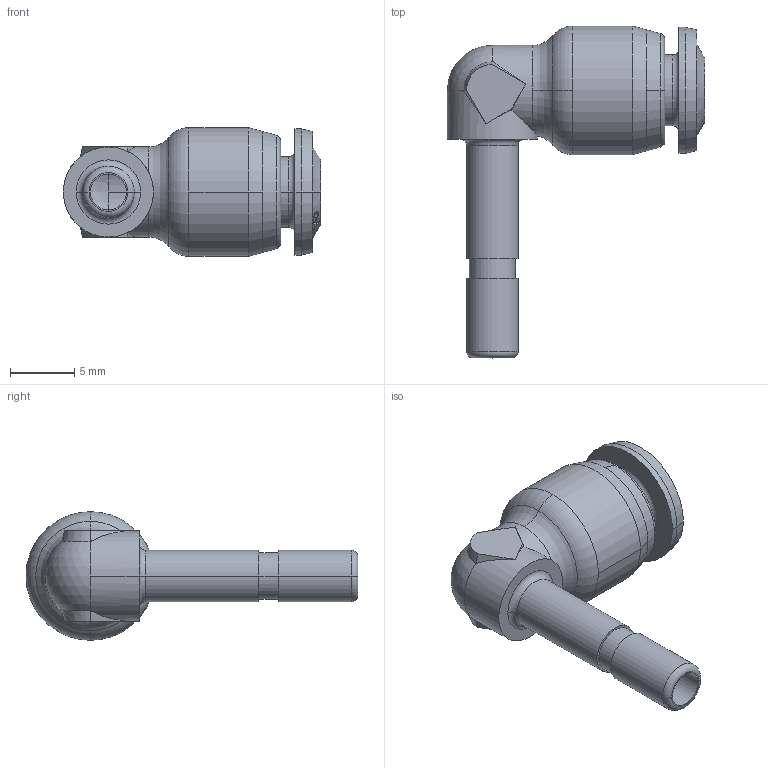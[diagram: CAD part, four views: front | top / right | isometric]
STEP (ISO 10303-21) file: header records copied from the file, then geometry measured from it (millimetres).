
FILE_DESCRIPTION (( 'STEP AP203' ), '1' );
FILE_NAME ('5514000001.step', '2016-07-22T09:11:57', ( 'ST01' ), ( '' ), 'SwSTEP 2.0', 'SolidWorks 2016', '' );
FILE_SCHEMA (( 'CONFIG_CONTROL_DESIGN' ));
Length unit declared in the file: millimetre
Products named in the file (1): 5514000001
Bounding box: 20 x 25.8 x 10 mm (x, y, z)
Surface area: 1178.1 mm2 (no closed solid volume)
Topology: 0 solids, 3 shells, 179 faces, 473 edges, 308 vertices
Faces by surface type: bspline 97, cone 27, plane 22, cylinder 20, torus 12, sphere 1
Entity records: 9404 total; most frequent: CARTESIAN_POINT 5806, ORIENTED_EDGE 902, EDGE_CURVE 473, DIRECTION 393, B_SPLINE_CURVE_WITH_KNOTS 320, VERTEX_POINT 308, EDGE_LOOP 200, ADVANCED_FACE 179
